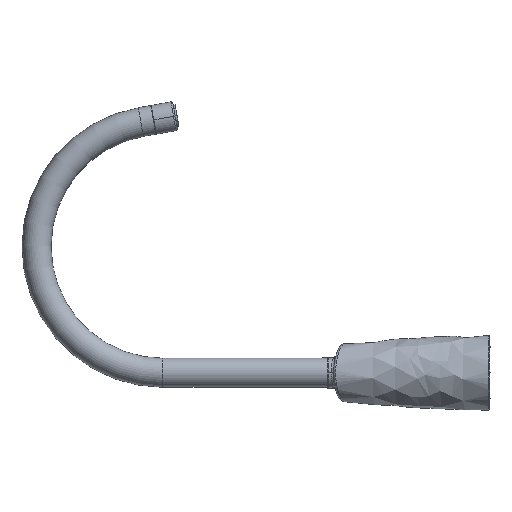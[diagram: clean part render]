
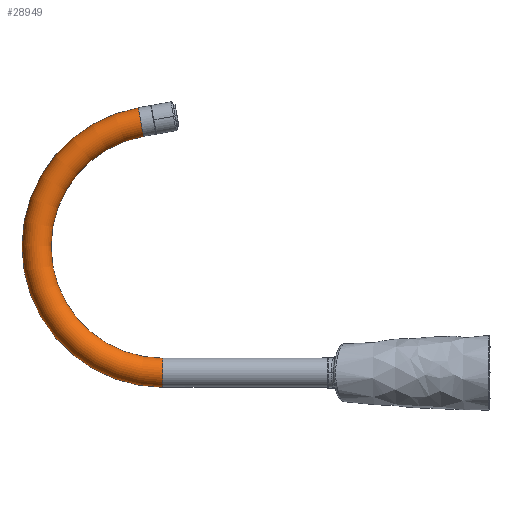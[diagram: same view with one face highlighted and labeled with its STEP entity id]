
A CAD part, left-side view. The second image highlights one B-rep face of the part: STEP entity #28949.
In plain terms, the highlighted toroidal (fillet/blend) face has major radius 100 mm and minor radius 11.5 mm.
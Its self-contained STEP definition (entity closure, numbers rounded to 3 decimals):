
#28826=CARTESIAN_POINT('',(0.,258.45,0.));
#28827=DIRECTION('',(0.,1.,0.));
#28828=DIRECTION('',(0.,0.,-1.));
#28829=AXIS2_PLACEMENT_3D('',#28826,#28827,#28828);
#28831=CARTESIAN_POINT('',(0.,258.45,100.));
#28832=DIRECTION('',(1.,0.,0.));
#28833=DIRECTION('',(0.,0.,-1.));
#28834=AXIS2_PLACEMENT_3D('',#28831,#28832,#28833);
#28841=CARTESIAN_POINT('',(0.,258.45,100.));
#28842=DIRECTION('',(1.,0.,0.));
#28843=DIRECTION('',(0.,0.,-1.));
#28844=AXIS2_PLACEMENT_3D('',#28841,#28842,#28843);
#28855=CARTESIAN_POINT('',(0.,275.815,
198.481));
#28856=DIRECTION('',(0.,-0.985,0.174));
#28857=DIRECTION('',(0.,0.174,0.985));
#28858=AXIS2_PLACEMENT_3D('',#28855,#28856,#28857);
#28878=CARTESIAN_POINT('',(0.,258.45,11.5));
#28879=CARTESIAN_POINT('',(0.,258.45,-11.5));
#28880=VERTEX_POINT('',#28878);
#28881=VERTEX_POINT('',#28879);
#28882=CARTESIAN_POINT('',(0.,273.818,
187.155));
#28883=CARTESIAN_POINT('',(0.,277.812,
209.806));
#28884=VERTEX_POINT('',#28882);
#28885=VERTEX_POINT('',#28883);
#28935=CARTESIAN_POINT('',(0.,258.45,100.));
#28936=DIRECTION('',(1.,0.,0.));
#28937=DIRECTION('',(0.,0.,1.));
#28938=AXIS2_PLACEMENT_3D('',#28935,#28936,#28937);
#28939=TOROIDAL_SURFACE('',#28938,100.,11.5);
#28940=ORIENTED_EDGE('',*,*,#28924,.F.);
#28942=ORIENTED_EDGE('',*,*,#28941,.T.);
#28944=ORIENTED_EDGE('',*,*,#28943,.T.);
#28946=ORIENTED_EDGE('',*,*,#28945,.F.);
#28947=EDGE_LOOP('',(#28940,#28942,#28944,#28946));
#28948=FACE_OUTER_BOUND('',#28947,.F.);
#28949=ADVANCED_FACE('',(#28948),#28939,.T.);
#28830=CIRCLE('',#28829,11.5);
#28835=CIRCLE('',#28834,111.5);
#28845=CIRCLE('',#28844,88.5);
#28859=CIRCLE('',#28858,11.5);
#28924=EDGE_CURVE('',#28881,#28880,#28830,.T.);
#28941=EDGE_CURVE('',#28881,#28885,#28835,.T.);
#28943=EDGE_CURVE('',#28885,#28884,#28859,.T.);
#28945=EDGE_CURVE('',#28880,#28884,#28845,.T.);
